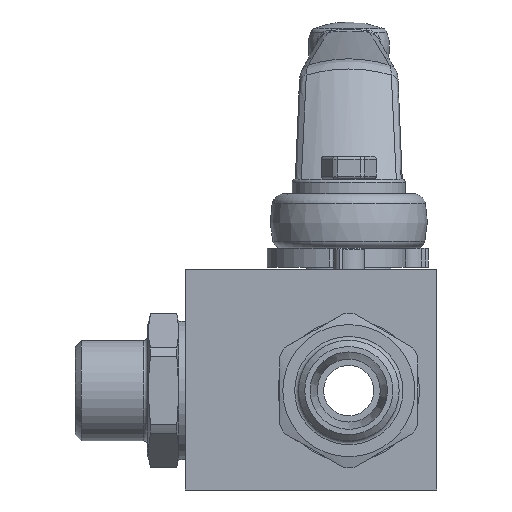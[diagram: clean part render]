
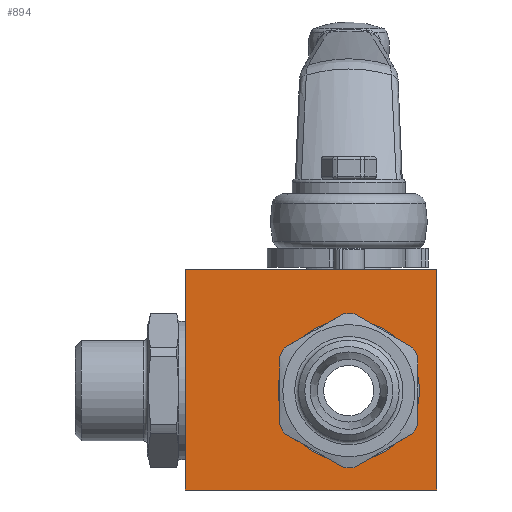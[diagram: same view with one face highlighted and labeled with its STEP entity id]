
A CAD part, front view. The second image highlights one B-rep face of the part: STEP entity #894.
In plain terms, the highlighted planar face has unit normal (0, -1, 0).
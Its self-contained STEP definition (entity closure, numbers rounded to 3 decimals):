
#894 = ADVANCED_FACE( '', ( #1914, #1915 ), #1916, .T. );
#1914 = FACE_OUTER_BOUND( '', #3529, .T. );
#1915 = FACE_BOUND( '', #3530, .T. );
#1916 = PLANE( '', #3531 );
#3529 = EDGE_LOOP( '', ( #6140, #6141, #6142, #6143 ) );
#3530 = EDGE_LOOP( '', ( #6144 ) );
#3531 = AXIS2_PLACEMENT_3D( '', #6145, #6146, #6147 );
#6140 = ORIENTED_EDGE( '', *, *, #8595, .T. );
#6141 = ORIENTED_EDGE( '', *, *, #8596, .T. );
#6142 = ORIENTED_EDGE( '', *, *, #8597, .T. );
#6143 = ORIENTED_EDGE( '', *, *, #8598, .T. );
#6144 = ORIENTED_EDGE( '', *, *, #8535, .T. );
#6145 = CARTESIAN_POINT( '', ( -26., -17.5, -15.8 ) );
#6146 = DIRECTION( '', ( 0., -1., 0. ) );
#6147 = DIRECTION( '', ( 0., 0., -1. ) );
#8535 = EDGE_CURVE( '', #10107, #10107, #10108, .T. );
#8595 = EDGE_CURVE( '', #10191, #10192, #10193, .T. );
#8596 = EDGE_CURVE( '', #10192, #10194, #10195, .T. );
#8597 = EDGE_CURVE( '', #10194, #10196, #10197, .T. );
#8598 = EDGE_CURVE( '', #10196, #10191, #10198, .T. );
#10107 = VERTEX_POINT( '', #12987 );
#10108 = CIRCLE( '', #12988, 11.25 );
#10191 = VERTEX_POINT( '', #13160 );
#10192 = VERTEX_POINT( '', #13161 );
#10193 = LINE( '', #13162, #13163 );
#10194 = VERTEX_POINT( '', #13164 );
#10195 = LINE( '', #13165, #13166 );
#10196 = VERTEX_POINT( '', #13167 );
#10197 = LINE( '', #13168, #13169 );
#10198 = LINE( '', #13170, #13171 );
#12987 = CARTESIAN_POINT( '', ( 11.25, -17.5, 0. ) );
#12988 = AXIS2_PLACEMENT_3D( '', #15205, #15206, #15207 );
#13160 = CARTESIAN_POINT( '', ( -26., -17.5, 19.2 ) );
#13161 = CARTESIAN_POINT( '', ( -26., -17.5, -15.8 ) );
#13162 = CARTESIAN_POINT( '', ( -26., -17.5, 19.2 ) );
#13163 = VECTOR( '', #15280, 1000. );
#13164 = CARTESIAN_POINT( '', ( 14., -17.5, -15.8 ) );
#13165 = CARTESIAN_POINT( '', ( -26., -17.5, -15.8 ) );
#13166 = VECTOR( '', #15281, 1000. );
#13167 = CARTESIAN_POINT( '', ( 14., -17.5, 19.2 ) );
#13168 = CARTESIAN_POINT( '', ( 14., -17.5, -15.8 ) );
#13169 = VECTOR( '', #15282, 1000. );
#13170 = CARTESIAN_POINT( '', ( 14., -17.5, 19.2 ) );
#13171 = VECTOR( '', #15283, 1000. );
#15205 = CARTESIAN_POINT( '', ( 0., -17.5, 0. ) );
#15206 = DIRECTION( '', ( 0., 1., 0. ) );
#15207 = DIRECTION( '', ( 1., 0., 0. ) );
#15280 = DIRECTION( '', ( 0., 0., -1. ) );
#15281 = DIRECTION( '', ( 1., 0., 0. ) );
#15282 = DIRECTION( '', ( 0., 0., 1. ) );
#15283 = DIRECTION( '', ( -1., 0., 0. ) );
